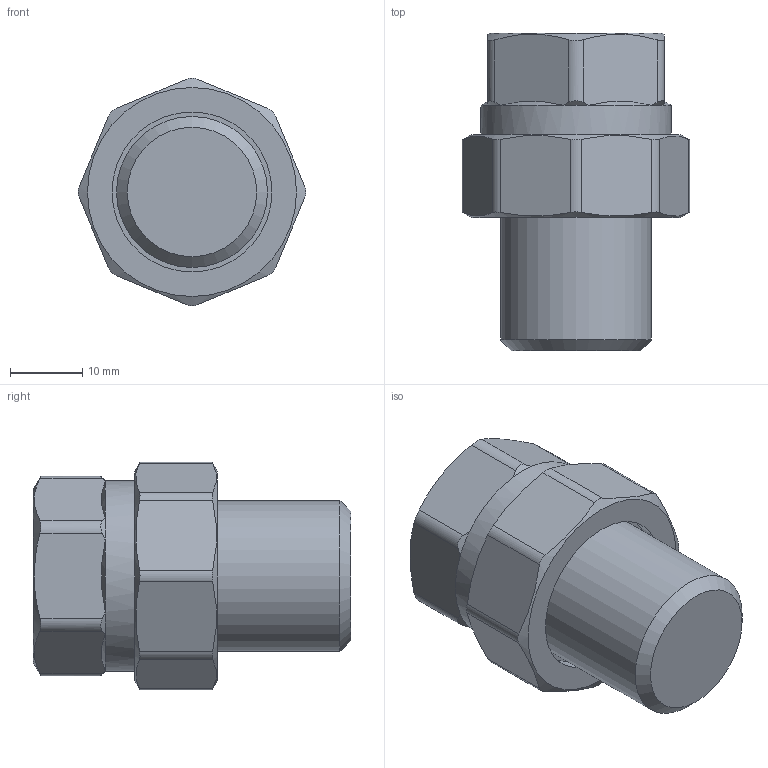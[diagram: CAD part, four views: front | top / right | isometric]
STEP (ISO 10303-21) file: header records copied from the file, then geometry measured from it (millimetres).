
FILE_DESCRIPTION(('STEP AP203'), '1');
FILE_NAME('覆.302612.001.000 捘 - VTr.341.N.0004', '2024-06-28T10:15:44', ('Boss'), (''), 'C3D Converter', 'C3D Toolkit', '');
FILE_SCHEMA(('CONFIG_CONTROL_DESIGN'));
Length unit declared in the file: millimetre
Products named in the file (1): ВР.302612.001.000 СБ
Bounding box: 31.6 x 44.07 x 31.6 mm (x, y, z)
Volume: 21880.9 mm3; surface area: 5108.4 mm2
Topology: 1 solids, 1 shells, 53 faces, 143 edges, 95 vertices
Faces by surface type: plane 19, cone 17, cylinder 17
Full cylindrical faces by diameter (mm): 20.955 x1, 22.2 x1, 26.441 x1
Entity records: 3611 total; most frequent: CARTESIAN_POINT 2393, ORIENTED_EDGE 270, DIRECTION 196, EDGE_CURVE 135, VERTEX_POINT 95, AXIS2_PLACEMENT_3D 78, B_SPLINE_CURVE_WITH_KNOTS 71, EDGE_LOOP 64
